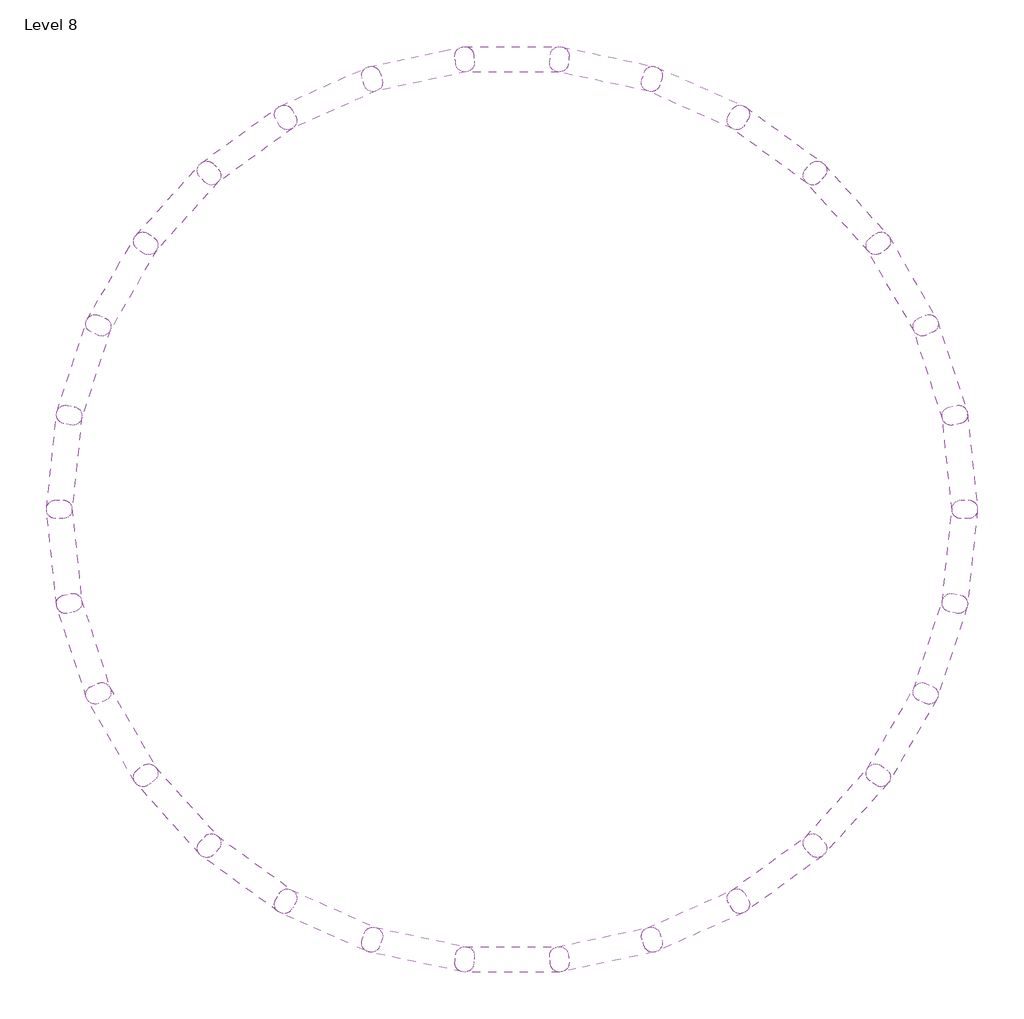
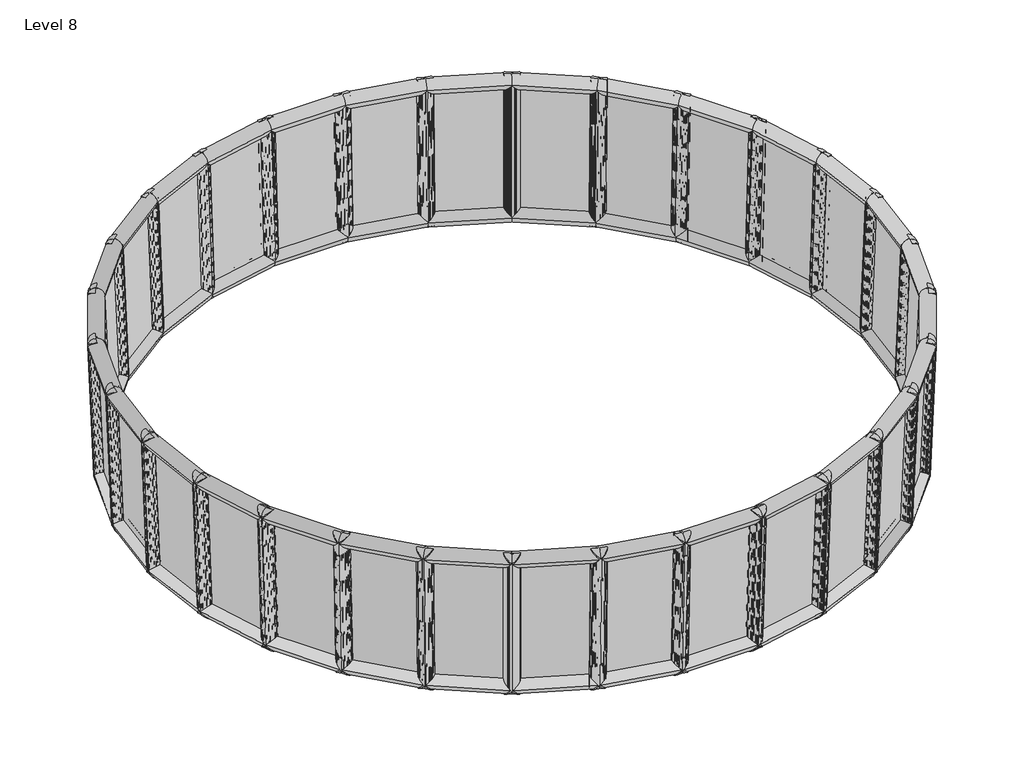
# One storey: 30 plates.
"""IFC4 building model written with IfcOpenShell, lengths in millimetres."""

from ifc_helpers import new_model, si_unit, origin, place, context, project, spatial, transform, mapped, element, save
from components import curtainpanel_curtainpanel_1d076447

model = new_model("IFC4")

# Units and contexts
model_context = context("Model", 3, world=origin())
ifc_project = project(units=[si_unit("LENGTHUNIT", "METRE", prefix="MILLI")], contexts=[model_context])

# Site, building, storey
site = spatial("IfcSite", under=ifc_project)
building = spatial("IfcBuilding", under=site)
storey = spatial("IfcBuildingStorey", under=building, Name="Level 8", Elevation=28000.0)

# Plates
placement = place(None, origin())
curtainpanel_curtainpanel_shape = curtainpanel_curtainpanel_1d076447(model_context)
element("IfcPlate", 1, ObjectType="CurtainPanel : CurtainPanel", at=placement, inside=storey, context=model_context, shape_type="MappedRepresentation", body=[
    mapped(curtainpanel_curtainpanel_shape, transform((10775.1597919, -2263.0412594, 39710.1606431), x_axis=(-0.11117414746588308, 0.9546112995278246, -0.27632874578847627), y_axis=(-0.008353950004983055, -0.2789402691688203, -0.9602721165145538), z_axis=(-0.9937658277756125, -0.10444899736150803, 0.038985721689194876))),
])
element("IfcPlate", 2, ObjectType="CurtainPanel : CurtainPanel", at=placement, inside=storey, context=model_context, shape_type="MappedRepresentation", body=[
    mapped(curtainpanel_curtainpanel_shape, transform((10944.8529335, 85.2208492, 39710.1606431), x_axis=(-0.30721957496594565, 0.9106363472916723, -0.2763287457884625), y_axis=(0.049823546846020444, -0.274581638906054, -0.9602721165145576), z_axis=(-0.9503334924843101, -0.3087820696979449, 0.038985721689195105))),
])
element("IfcPlate", 3, ObjectType="CurtainPanel : CurtainPanel", at=placement, inside=storey, context=model_context, shape_type="MappedRepresentation", body=[
    mapped(curtainpanel_curtainpanel_shape, transform((10622.6067273, 2417.4489846, 39710.1606431), x_axis=(-0.4898380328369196, 0.8268622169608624, -0.2763287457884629), y_axis=(0.10582351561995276, -0.25822247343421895, -0.9602721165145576), z_axis=(-0.8653670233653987, -0.4996198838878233, 0.03898572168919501))),
])
element("IfcPlate", 4, ObjectType="CurtainPanel : CurtainPanel", at=placement, inside=storey, context=model_context, shape_type="MappedRepresentation", body=[
    mapped(curtainpanel_curtainpanel_shape, transform((9822.504879, 4631.713586, 39710.1606431), x_axis=(-0.6510482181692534, 0.7069502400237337, -0.27632874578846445), y_axis=(0.15719848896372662, -0.2305777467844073, -0.9602721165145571), z_axis=(-0.7425798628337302, -0.6686219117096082, 0.03898572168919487))),
])
element("IfcPlate", 5, ObjectType="CurtainPanel : CurtainPanel", at=placement, inside=storey, context=model_context, shape_type="MappedRepresentation", body=[
    mapped(curtainpanel_curtainpanel_shape, transform((8579.5156784, 6631.2406651, 39710.1606431), x_axis=(-0.7838044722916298, 0.5561411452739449, -0.27632874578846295), y_axis=(0.20170313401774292, -0.19285566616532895, -0.9602721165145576), z_axis=(-0.5873383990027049, -0.8084019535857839, 0.038985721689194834))),
])
element("IfcPlate", 6, ObjectType="CurtainPanel : CurtainPanel", at=placement, inside=storey, context=model_context, shape_type="MappedRepresentation", body=[
    mapped(curtainpanel_curtainpanel_shape, transform((6947.9637183, 8328.6412938, 39710.1606431), x_axis=(-0.8823047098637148, 0.381026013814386, -0.2763287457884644), y_axis=(0.2373923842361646, -0.14670486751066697, -0.9602721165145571), z_axis=(-0.40642742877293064, -0.9128509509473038, 0.03898572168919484))),
])
element("IfcPlate", 7, ObjectType="CurtainPanel : CurtainPanel", at=placement, inside=storey, context=model_context, shape_type="MappedRepresentation", body=[
    mapped(curtainpanel_curtainpanel_shape, transform((4999.1556484, 9649.7309196, 39710.1606431), x_axis=(-0.942243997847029, 0.18925821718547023, -0.27632874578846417), y_axis=(0.26270644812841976, -0.09414236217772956, -0.9602721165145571), z_axis=(-0.20775362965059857, -0.9774039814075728, 0.03898572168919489))),
])
element("IfcPlate", 8, ObjectType="CurtainPanel : CurtainPanel", at=placement, inside=storey, context=model_context, shape_type="MappedRepresentation", body=[
    mapped(curtainpanel_curtainpanel_shape, transform((2818.2637327, 10536.7715865, 39710.1606431), x_axis=(-0.9610027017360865, -0.010781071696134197, -0.27632874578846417), y_axis=(0.2765389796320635, -0.03746538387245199, -0.9602721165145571), z_axis=(0.0, -0.999239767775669, 0.03898572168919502))),
])
element("IfcPlate", 9, ObjectType="CurtainPanel : CurtainPanel", at=placement, inside=storey, context=model_context, shape_type="MappedRepresentation", body=[
    mapped(curtainpanel_curtainpanel_shape, transform((500.6034129, 10950.9953609, 39710.1606431), x_axis=(-0.937760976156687, -0.21034917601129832, -0.27632874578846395), y_axis=(0.2782854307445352, 0.020849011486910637, -0.9602721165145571), z_axis=(0.20775362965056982, -0.9774039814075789, 0.03898572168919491))),
])
element("IfcPlate", 10, ObjectType="CurtainPanel : CurtainPanel", at=placement, inside=storey, context=model_context, shape_type="MappedRepresentation", body=[
    mapped(curtainpanel_curtainpanel_shape, transform((-1852.5324334, 10874.2986762, 39710.1606431), x_axis=(-0.8735345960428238, -0.4007240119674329, -0.2763287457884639), y_axis=(0.2678694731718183, 0.07825220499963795, -0.9602721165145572), z_axis=(0.40642742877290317, -0.9128509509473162, 0.03898572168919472))),
])
element("IfcPlate", 11, ObjectType="CurtainPanel : CurtainPanel", at=placement, inside=storey, context=model_context, shape_type="MappedRepresentation", body=[
    mapped(curtainpanel_curtainpanel_shape, transform((-4138.3004783, 10310.0335455, 39710.1606431), x_axis=(-0.7711305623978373, -0.5735852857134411, -0.27632874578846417), y_axis=(0.2457463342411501, 0.13223540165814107, -0.9602721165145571), z_axis=(0.5873383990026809, -0.8084019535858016, 0.03898572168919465))),
])
element("IfcPlate", 12, ObjectType="CurtainPanel : CurtainPanel", at=placement, inside=storey, context=model_context, shape_type="MappedRepresentation", body=[
    mapped(curtainpanel_curtainpanel_shape, transform((-8115.4473995, 7837.6735942, 39710.1606431), x_axis=(-0.471164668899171, -0.837643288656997, -0.27632874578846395), y_axis=(0.17071546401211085, 0.2207570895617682, -0.9602721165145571), z_axis=(0.8653670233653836, -0.4996198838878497, 0.03898572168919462))),
])
element("IfcPlate", 13, ObjectType="CurtainPanel : CurtainPanel", at=placement, inside=storey, context=model_context, shape_type="MappedRepresentation", body=[
    mapped(curtainpanel_curtainpanel_shape, transform((-6256.8016899, 9282.8610627, 39710.1606431), x_axis=(-0.6350244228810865, -0.7213781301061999, -0.27632874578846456), y_axis=(0.2128829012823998, 0.18043927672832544, -0.960272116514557), z_axis=(0.7425798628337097, -0.668621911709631, 0.03898572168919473))),
])
element("IfcPlate", 14, ObjectType="CurtainPanel : CurtainPanel", at=placement, inside=storey, context=model_context, shape_type="MappedRepresentation", body=[
    mapped(curtainpanel_curtainpanel_shape, transform((-9633.0058708, 6037.6327672, 39710.1606431), x_axis=(-0.2867127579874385, -0.9172994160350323, -0.2763287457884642), y_axis=(0.12108694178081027, 0.2514267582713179, -0.9602721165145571), z_axis=(0.9503334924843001, -0.30878206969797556, 0.038985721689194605))),
])
element("IfcPlate", 15, ObjectType="CurtainPanel : CurtainPanel", at=placement, inside=storey, context=model_context, shape_type="MappedRepresentation", body=[
    mapped(curtainpanel_curtainpanel_shape, transform((-10743.1525167, 3961.4090034, 39710.1606431), x_axis=(-0.08973012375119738, -0.9568651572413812, -0.27632874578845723), y_axis=(0.06616633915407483, 0.27110787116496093, -0.9602721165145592), z_axis=(0.9937658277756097, -0.10444899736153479, 0.03898572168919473))),
])
element("IfcPlate", 16, ObjectType="CurtainPanel : CurtainPanel", at=placement, inside=storey, context=model_context, shape_type="MappedRepresentation", body=[
    mapped(curtainpanel_curtainpanel_shape, transform((-11397.3686015, 1699.743244, 39710.1606431), x_axis=(0.11117414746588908, -0.9546112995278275, -0.276328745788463), y_axis=(0.008353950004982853, 0.27894026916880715, -0.9602721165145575), z_axis=(0.9937658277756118, 0.10444899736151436, 0.03898572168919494))),
])
element("IfcPlate", 17, ObjectType="CurtainPanel : CurtainPanel", at=placement, inside=storey, context=model_context, shape_type="MappedRepresentation", body=[
    mapped(curtainpanel_curtainpanel_shape, transform((-11567.0617431, -648.5188646, 39710.1606431), x_axis=(0.30721957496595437, -0.9106363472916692, -0.27632874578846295), y_axis=(-0.049823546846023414, 0.2745816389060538, -0.9602721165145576), z_axis=(0.9503334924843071, 0.3087820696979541, 0.038985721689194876))),
])
element("IfcPlate", 18, ObjectType="CurtainPanel : CurtainPanel", at=placement, inside=storey, context=model_context, shape_type="MappedRepresentation", body=[
    mapped(curtainpanel_curtainpanel_shape, transform((-11244.815537, -2980.747, 39710.1606431), x_axis=(0.4898380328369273, -0.8268622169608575, -0.2763287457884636), y_axis=(-0.1058235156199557, 0.2582224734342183, -0.9602721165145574), z_axis=(0.8653670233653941, 0.49961988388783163, 0.038985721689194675))),
])
element("IfcPlate", 19, ObjectType="CurtainPanel : CurtainPanel", at=placement, inside=storey, context=model_context, shape_type="MappedRepresentation", body=[
    mapped(curtainpanel_curtainpanel_shape, transform((-10444.7136886, -5195.0116014, 39710.1606431), x_axis=(0.6510482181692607, -0.7069502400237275, -0.27632874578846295), y_axis=(-0.15719848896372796, 0.23057774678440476, -0.9602721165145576), z_axis=(0.7425798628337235, 0.6686219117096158, 0.03898572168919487))),
])
element("IfcPlate", 20, ObjectType="CurtainPanel : CurtainPanel", at=placement, inside=storey, context=model_context, shape_type="MappedRepresentation", body=[
    mapped(curtainpanel_curtainpanel_shape, transform((-9201.7244881, -7194.5386805, 39710.1606431), x_axis=(0.7838044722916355, -0.5561411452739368, -0.27632874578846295), y_axis=(-0.20170313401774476, 0.192855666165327, -0.9602721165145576), z_axis=(0.5873383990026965, 0.8084019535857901, 0.03898572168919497))),
])
element("IfcPlate", 21, ObjectType="CurtainPanel : CurtainPanel", at=placement, inside=storey, context=model_context, shape_type="MappedRepresentation", body=[
    mapped(curtainpanel_curtainpanel_shape, transform((-7570.172528, -8891.9393093, 39710.1606431), x_axis=(0.8823047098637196, -0.38102601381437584, -0.276328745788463), y_axis=(-0.23739238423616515, 0.1467048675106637, -0.9602721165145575), z_axis=(0.40642742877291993, 0.9128509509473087, 0.03898572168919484))),
])
element("IfcPlate", 22, ObjectType="CurtainPanel : CurtainPanel", at=placement, inside=storey, context=model_context, shape_type="MappedRepresentation", body=[
    mapped(curtainpanel_curtainpanel_shape, transform((-5621.364458, -10213.028935, 39710.1606431), x_axis=(0.9422439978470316, -0.18925821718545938, -0.2763287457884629), y_axis=(-0.26270644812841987, 0.09414236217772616, -0.9602721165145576), z_axis=(0.20775362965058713, 0.9774039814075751, 0.038985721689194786))),
])
element("IfcPlate", 23, ObjectType="CurtainPanel : CurtainPanel", at=placement, inside=storey, context=model_context, shape_type="MappedRepresentation", body=[
    mapped(curtainpanel_curtainpanel_shape, transform((-3440.4725423, -11100.0696019, 39710.1606431), x_axis=(0.9610027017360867, 0.010781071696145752, -0.2763287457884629), y_axis=(-0.2765389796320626, 0.03746538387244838, -0.9602721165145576), z_axis=(0.0, 0.9992397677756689, 0.03898572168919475))),
])
element("IfcPlate", 24, ObjectType="CurtainPanel : CurtainPanel", at=placement, inside=storey, context=model_context, shape_type="MappedRepresentation", body=[
    mapped(curtainpanel_curtainpanel_shape, transform((-1122.8122226, -11514.2933763, 39710.1606431), x_axis=(0.9377609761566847, 0.21034917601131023, -0.27632874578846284), y_axis=(-0.27828543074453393, -0.020849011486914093, -0.9602721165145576), z_axis=(-0.20775362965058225, 0.9774039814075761, 0.03898572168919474))),
])
element("IfcPlate", 25, ObjectType="CurtainPanel : CurtainPanel", at=placement, inside=storey, context=model_context, shape_type="MappedRepresentation", body=[
    mapped(curtainpanel_curtainpanel_shape, transform((1230.3236238, -11437.5966916, 39710.1606431), x_axis=(0.8735345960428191, 0.40072401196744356, -0.2763287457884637), y_axis=(-0.26786947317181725, -0.07825220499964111, -0.9602721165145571), z_axis=(-0.40642742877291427, 0.9128509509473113, 0.03898572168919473))),
])
element("IfcPlate", 26, ObjectType="CurtainPanel : CurtainPanel", at=placement, inside=storey, context=model_context, shape_type="MappedRepresentation", body=[
    mapped(curtainpanel_curtainpanel_shape, transform((3516.0916687, -10873.3315609, 39710.1606431), x_axis=(0.7711305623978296, 0.5735852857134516, -0.27632874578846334), y_axis=(-0.24574633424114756, -0.13223540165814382, -0.9602721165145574), z_axis=(-0.5873383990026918, 0.8084019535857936, 0.03898572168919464))),
])
element("IfcPlate", 27, ObjectType="CurtainPanel : CurtainPanel", at=placement, inside=storey, context=model_context, shape_type="MappedRepresentation", body=[
    mapped(curtainpanel_curtainpanel_shape, transform((7493.2385899, -8400.9716097, 39710.1606431), x_axis=(0.47116466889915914, 0.8376432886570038, -0.2763287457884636), y_axis=(-0.17071546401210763, -0.22075708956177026, -0.9602721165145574), z_axis=(-0.8653670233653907, 0.49961988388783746, 0.03898572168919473))),
])
element("IfcPlate", 28, ObjectType="CurtainPanel : CurtainPanel", at=placement, inside=storey, context=model_context, shape_type="MappedRepresentation", body=[
    mapped(curtainpanel_curtainpanel_shape, transform((5634.5928803, -9846.1590781, 39710.1606431), x_axis=(0.6350244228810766, 0.7213781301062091, -0.276328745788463), y_axis=(-0.21288290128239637, -0.1804392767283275, -0.9602721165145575), z_axis=(-0.7425798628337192, 0.6686219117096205, 0.03898572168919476))),
])
element("IfcPlate", 29, ObjectType="CurtainPanel : CurtainPanel", at=placement, inside=storey, context=model_context, shape_type="MappedRepresentation", body=[
    mapped(curtainpanel_curtainpanel_shape, transform((9010.7970612, -6600.9307826, 39710.1606431), x_axis=(0.28671275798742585, 0.9172994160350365, -0.276328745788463), y_axis=(-0.12108694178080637, -0.25142675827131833, -0.9602721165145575), z_axis=(-0.9503334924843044, 0.3087820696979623, 0.038985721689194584))),
])
element("IfcPlate", 30, ObjectType="CurtainPanel : CurtainPanel", at=placement, inside=storey, context=model_context, shape_type="MappedRepresentation", body=[
    mapped(curtainpanel_curtainpanel_shape, transform((10120.943707, -4524.7070188, 39710.1606431), x_axis=(0.08973012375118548, 0.9568651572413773, -0.27632874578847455), y_axis=(-0.0661663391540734, -0.2711078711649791, -0.9602721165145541), z_axis=(-0.993765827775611, 0.10444899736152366, 0.03898572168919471))),
])

save(model, "model.ifc")
